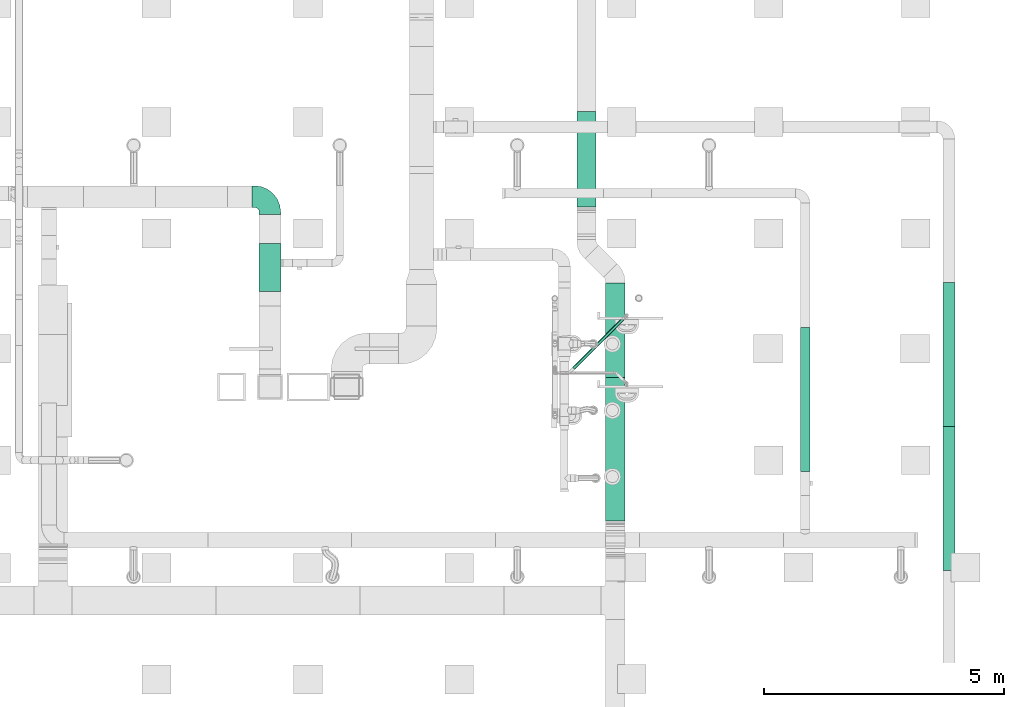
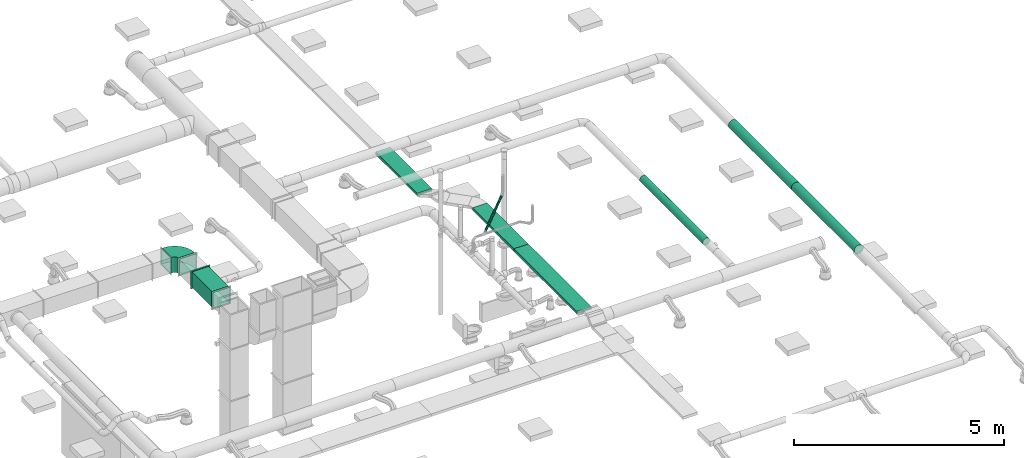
# One storey, part 4 of 119: 5 flow segments, 3 distribution elements, 1 flow fitting.
"""IFC2X3 building model written with IfcOpenShell, lengths in metres."""

from ifc_helpers import new_model, si_unit, direction, frame, frame_2d, origin, place, context, subcontext, project, spatial, rectangle, extrude, open_shell, surface_model, source, transform, mapped, element, save


model = new_model("IFC2X3")

# Units and contexts
model_context = context("Model", 3, precision=1e-05, world=origin(), true_north=direction((-0.4480736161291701, 0.8939966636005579)))
body_context = subcontext(model_context, "Body", "Model", "MODEL_VIEW")
ifc_project = project(units=[si_unit("LENGTHUNIT", "METRE"), si_unit("AREAUNIT", "SQUARE_METRE"), si_unit("VOLUMEUNIT", "CUBIC_METRE"), si_unit("PLANEANGLEUNIT", "RADIAN"), si_unit("THERMODYNAMICTEMPERATUREUNIT", "KELVIN"), si_unit("MASSUNIT", "GRAM", prefix="KILO"), si_unit("TIMEUNIT", "SECOND")], contexts=[model_context])

# Site, building, storey
site_placement = place(None, origin())
site = spatial("IfcSite", under=ifc_project, at=site_placement, Name="Site 1", CompositionType="ELEMENT")
building_placement = place(site_placement, origin())
building = spatial("IfcBuilding", under=site, at=building_placement, Name="Undefined", CompositionType="ELEMENT")
storey_placement = place(building_placement, frame((0.0, 0.0, 5.4)))
storey = spatial("IfcBuildingStorey", under=building, at=storey_placement, Name="R+1", CompositionType="ELEMENT", Elevation=5.4)

# Flow segments
shared_shape_1 = source(origin(), body_context, "Body", "SurfaceModel", [
    surface_model("IfcFaceBasedSurfaceModel", [(0.0, 0.02610523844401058, 0.0), (0.0, 0.0, 0.0), (3.0, 0.0, 0.0), (3.0, 0.026105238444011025, 0.0), (0.0, -0.025215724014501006, -0.006756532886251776), (3.0, -0.02521572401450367, -0.006756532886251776), (0.0, -0.04782352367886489, -0.019809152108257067), (3.0, -0.04782352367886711, -0.019809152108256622), (0.0, -0.066282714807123, -0.038268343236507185), (3.0, -0.06628271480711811, -0.03826834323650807), (0.0, -0.07933533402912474, -0.06087614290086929), (3.0, -0.0793353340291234, -0.060876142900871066), (0.0, -0.08609186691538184, -0.08609186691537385), (3.0, -0.08609186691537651, -0.08609186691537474), (0.0, -0.08609186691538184, -0.11219710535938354), (3.0, -0.08609186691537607, -0.11219710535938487), (0.0, -0.07933533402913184, -0.1374128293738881), (3.0, -0.0793353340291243, -0.137412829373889), (0.0, -0.066282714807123, -0.16002062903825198), (3.0, -0.06628271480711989, -0.16002062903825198), (0.0, -0.04782352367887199, -0.17847982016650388), (3.0, -0.04782352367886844, -0.17847982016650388), (0.0, -0.025215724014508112, -0.19153243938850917), (3.0, -0.025215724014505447, -0.19153243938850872), (0.0, -7.105427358e-15, -0.19828897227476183), (3.0, -8.8817842e-16, -0.1982889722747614), (0.0, 0.026105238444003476, -0.19828897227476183), (3.0, 0.026105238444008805, -0.19828897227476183), (0.0, 0.05132096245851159, -0.19153243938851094), (3.0, 0.051320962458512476, -0.1915324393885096), (0.0, 0.07392876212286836, -0.17847982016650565), (3.0, 0.07392876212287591, -0.17847982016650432), (0.0, 0.09238795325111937, -0.16002062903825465), (3.0, 0.09238795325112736, -0.16002062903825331), (0.0, 0.10544057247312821, -0.13741282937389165), (3.0, 0.1054405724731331, -0.13741282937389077), (0.0, 0.11219710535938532, -0.11219710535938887), (3.0, 0.11219710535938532, -0.11219710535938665), (0.0, 0.11219710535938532, -0.08609186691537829), (3.0, 0.1121971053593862, -0.08609186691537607), (0.0, 0.10544057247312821, -0.06087614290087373), (3.0, 0.10544057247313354, -0.0608761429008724), (0.0, 0.09238795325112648, -0.03826834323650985), (3.0, 0.0923879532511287, -0.038268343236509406), (0.0, 0.07392876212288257, -0.019809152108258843), (3.0, 0.07392876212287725, -0.01980915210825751), (0.0, 0.05132096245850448, -0.006756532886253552), (3.0, 0.05132096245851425, -0.006756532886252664)], [open_shell([[[0, 1, 2, 3]], [[1, 4, 5, 2]], [[4, 6, 7, 5]], [[6, 8, 9, 7]], [[8, 10, 11, 9]], [[10, 12, 13, 11]], [[12, 14, 15, 13]], [[14, 16, 17, 15]], [[16, 18, 19, 17]], [[18, 20, 21, 19]], [[20, 22, 23, 21]], [[22, 24, 25, 23]], [[24, 26, 27, 25]], [[26, 28, 29, 27]], [[28, 30, 31, 29]], [[30, 32, 33, 31]], [[32, 34, 35, 33]], [[34, 36, 37, 35]], [[36, 38, 39, 37]], [[38, 40, 41, 39]], [[40, 42, 43, 41]], [[42, 44, 45, 43]], [[44, 46, 47, 45]], [[46, 0, 3, 47]]])]),
])
flow_segment_1_placement = place(storey_placement, origin())
element("IfcFlowSegment", 1, at=flow_segment_1_placement, inside=storey, Name="Tube", ObjectType="Tube", context=body_context, shape_type="MappedRepresentation", body=[
    mapped(shared_shape_1, transform((62.31851567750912, 10.15603395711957, 2.8715925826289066), x_axis=(0.0, 1.0, 0.0), y_axis=(-0.9914448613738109, 0.0, 0.1305261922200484), z_axis=(0.1305261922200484, 0.0, 0.9914448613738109))),
])
shared_shape_2 = source(origin(), body_context, "Body", "SurfaceModel", [
    surface_model("IfcFaceBasedSurfaceModel", [(0.0, 0.03263154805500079, 0.0), (0.0, 0.0, 0.0), (3.0, 0.0, 0.0), (3.0, 0.03263154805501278, -4.4408921e-16), (0.0, -0.031519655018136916, -0.008445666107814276), (3.0, -0.03151965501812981, -0.008445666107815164), (0.0, -0.05977940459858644, -0.024761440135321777), (3.0, -0.05977940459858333, -0.02476144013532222), (0.0, -0.08285339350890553, -0.047835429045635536), (3.0, -0.08285339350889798, -0.04783542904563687), (0.0, -0.09916916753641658, -0.07609517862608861), (3.0, -0.09916916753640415, -0.07609517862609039), (0.0, -0.1076148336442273, -0.10761483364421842), (3.0, -0.10761483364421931, -0.10761483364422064), (0.0, -0.1076148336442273, -0.14024638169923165), (3.0, -0.10761483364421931, -0.14024638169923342), (0.0, -0.09916916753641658, -0.17176603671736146), (3.0, -0.09916916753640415, -0.17176603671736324), (0.0, -0.08285339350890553, -0.2000257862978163), (3.0, -0.08285339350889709, -0.20002578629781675), (0.0, -0.059779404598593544, -0.22309977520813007), (3.0, -0.059779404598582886, -0.22309977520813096), (0.0, -0.03151965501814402, -0.23941554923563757), (3.0, -0.03151965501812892, -0.23941554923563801), (0.0, -1.4210854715e-14, -0.24786121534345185), (3.0, 8.8817842e-16, -0.24786121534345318), (0.0, 0.03263154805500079, -0.24786121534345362), (3.0, 0.032631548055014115, -0.24786121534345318), (0.0, 0.0641512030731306, -0.23941554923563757), (3.0, 0.06415120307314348, -0.23941554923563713), (0.0, 0.09241095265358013, -0.22309977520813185), (3.0, 0.092410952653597, -0.22309977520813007), (0.0, 0.11548494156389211, -0.2000257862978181), (3.0, 0.11548494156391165, -0.20002578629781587), (0.0, 0.13180071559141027, -0.171766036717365), (3.0, 0.13180071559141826, -0.1717660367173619), (0.0, 0.140246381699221, -0.1402463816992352), (3.0, 0.14024638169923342, -0.14024638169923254), (0.0, 0.140246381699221, -0.10761483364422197), (3.0, 0.14024638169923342, -0.10761483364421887), (0.0, 0.13180071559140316, -0.07609517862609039), (3.0, 0.13180071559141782, -0.07609517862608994), (0.0, 0.11548494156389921, -0.04783542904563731), (3.0, 0.11548494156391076, -0.047835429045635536), (0.0, 0.09241095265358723, -0.024761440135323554), (3.0, 0.09241095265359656, -0.024761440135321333), (0.0, 0.06415120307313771, -0.008445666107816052), (3.0, 0.06415120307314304, -0.008445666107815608)], [open_shell([[[0, 1, 2, 3]], [[1, 4, 5, 2]], [[4, 6, 7, 5]], [[6, 8, 9, 7]], [[8, 10, 11, 9]], [[10, 12, 13, 11]], [[12, 14, 15, 13]], [[14, 16, 17, 15]], [[16, 18, 19, 17]], [[18, 20, 21, 19]], [[20, 22, 23, 21]], [[22, 24, 25, 23]], [[24, 26, 27, 25]], [[26, 28, 29, 27]], [[28, 30, 31, 29]], [[30, 32, 33, 31]], [[32, 34, 35, 33]], [[34, 36, 37, 35]], [[36, 38, 39, 37]], [[38, 40, 41, 39]], [[40, 42, 43, 41]], [[42, 44, 45, 43]], [[44, 46, 47, 45]], [[46, 0, 3, 47]]])]),
])
flow_segment_2_placement = place(storey_placement, origin())
element("IfcFlowSegment", 2, at=flow_segment_2_placement, inside=storey, Name="Tube", ObjectType="Tube", context=body_context, shape_type="MappedRepresentation", body=[
    mapped(shared_shape_2, transform((65.25765520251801, 14.089283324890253, 2.8707407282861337), x_axis=(0.0, -1.0, 0.0), y_axis=(0.9914448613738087, 0.0, 0.13052619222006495), z_axis=(-0.13052619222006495, 0.0, 0.9914448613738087))),
])
flow_segment_3_placement = place(storey_placement, origin())
element("IfcFlowSegment", 3, at=flow_segment_3_placement, inside=storey, Name="Tube", ObjectType="Tube", context=body_context, shape_type="MappedRepresentation", body=[
    mapped(shared_shape_2, transform((65.25765520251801, 11.089283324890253, 2.8707407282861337), x_axis=(0.0, -1.0, 0.0), y_axis=(0.9914448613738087, 0.0, 0.13052619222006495), z_axis=(-0.13052619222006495, 0.0, 0.9914448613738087))),
])

# Flow fitting
shared_shape_3 = source(origin(), body_context, "Body", "SurfaceModel", [
    surface_model("IfcFaceBasedSurfaceModel", [(0.0, 0.0, 0.0), (0.5299999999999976, 4.4408921e-16, 0.0), (0.48999999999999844, 0.03999999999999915, 0.0), (0.04000000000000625, 0.040000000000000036, 0.0), (0.5299999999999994, 0.5300000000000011, 0.0), (0.48999999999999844, 0.490000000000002, 0.0), (0.0, 0.5300000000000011, 0.0), (0.03999999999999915, 0.490000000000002, 0.0), (0.6369999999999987, 0.0, -0.637), (0.6369999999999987, 0.0, -0.10699999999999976), (0.6369999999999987, 0.03999999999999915, -0.1469999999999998), (0.6369999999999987, 0.03999999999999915, -0.597), (0.6369999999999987, 0.5300000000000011, -0.10699999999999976), (0.6369999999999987, 0.490000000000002, -0.1469999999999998), (0.6369999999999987, 0.5300000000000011, -0.637), (0.6369999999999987, 0.490000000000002, -0.597), (0.03999999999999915, 0.490000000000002, -0.04699999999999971), (0.05874079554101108, 0.490000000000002, -0.1893504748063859), (0.05874079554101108, 0.03999999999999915, -0.1893504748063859), (0.04000000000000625, 0.040000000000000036, -0.0470000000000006), (0.11368602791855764, 0.490000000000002, -0.3219999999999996), (0.11368602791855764, 0.03999999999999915, -0.3219999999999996), (0.2010912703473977, 0.490000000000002, -0.4359087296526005), (0.2010912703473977, 0.03999999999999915, -0.4359087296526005), (0.3149999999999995, 0.490000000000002, -0.5233139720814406), (0.3149999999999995, 0.03999999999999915, -0.5233139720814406), (0.44764952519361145, 0.490000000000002, -0.5782592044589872), (0.44764952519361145, 0.03999999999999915, -0.5782592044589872), (0.5899999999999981, 0.490000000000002, -0.597), (0.5899999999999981, 0.03999999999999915, -0.597), (0.04000000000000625, 0.040000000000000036, 0.0030000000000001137), (0.03999999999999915, 0.490000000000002, 0.0030000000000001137), (0.48999999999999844, 0.03999999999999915, 0.0030000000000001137), (0.48999999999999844, 0.03999999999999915, -0.04699999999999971), (0.48999999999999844, 0.490000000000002, -0.04699999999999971), (0.48999999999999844, 0.490000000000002, 0.0030000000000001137), (0.5899999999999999, 0.490000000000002, -0.1469999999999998), (0.5641180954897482, 0.490000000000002, -0.1435925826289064), (0.5641180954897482, 0.03999999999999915, -0.1435925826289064), (0.5899999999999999, 0.03999999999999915, -0.1469999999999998), (0.5399999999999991, 0.490000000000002, -0.13360254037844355), (0.5399999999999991, 0.03999999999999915, -0.13360254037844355), (0.5192893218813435, 0.490000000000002, -0.11771067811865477), (0.5192893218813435, 0.03999999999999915, -0.11771067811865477), (0.5033974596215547, 0.490000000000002, -0.09699999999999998), (0.5033974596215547, 0.03999999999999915, -0.09699999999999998), (0.49340741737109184, 0.490000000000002, -0.07288190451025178), (0.49340741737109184, 0.03999999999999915, -0.07288190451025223), (0.6400000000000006, 0.040000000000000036, -0.14700000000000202), (0.6399999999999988, 0.490000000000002, -0.1469999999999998), (0.6399999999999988, 0.03999999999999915, -0.597), (0.6399999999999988, 0.490000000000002, -0.597)], [open_shell([[[0, 1, 2, 3]], [[1, 4, 5, 2]], [[6, 4, 5, 7]], [[0, 6, 7, 3]], [[8, 9, 10, 11]], [[9, 12, 13, 10]], [[14, 12, 13, 15]], [[8, 14, 15, 11]], [[16, 17, 18, 19]], [[17, 20, 21, 18]], [[20, 22, 23, 21]], [[22, 24, 25, 23]], [[24, 26, 27, 25]], [[26, 28, 29, 27]], [[19, 30, 31, 16]], [[32, 33, 34, 35]], [[36, 37, 38, 39]], [[37, 40, 41, 38]], [[40, 42, 43, 41]], [[42, 44, 45, 43]], [[44, 46, 47, 45]], [[46, 34, 33, 47]], [[39, 48, 49, 36]], [[50, 29, 28, 51]], [[17, 16, 46]], [[17, 46, 44]], [[17, 44, 42]], [[17, 42, 40]], [[17, 40, 37]], [[17, 37, 36]], [[17, 36, 51]], [[17, 51, 20]], [[34, 46, 16]], [[34, 16, 31]], [[34, 31, 35]], [[51, 28, 26]], [[51, 26, 24]], [[51, 24, 22]], [[51, 22, 20]], [[51, 36, 49]], [[47, 19, 18]], [[45, 47, 18]], [[43, 45, 18]], [[41, 43, 18]], [[38, 41, 18]], [[39, 38, 18]], [[50, 39, 18]], [[21, 50, 18]], [[19, 47, 33]], [[30, 19, 33]], [[32, 30, 33]], [[27, 29, 50]], [[25, 27, 50]], [[23, 25, 50]], [[21, 23, 50]], [[48, 39, 50]]])]),
])
flow_fitting_placement = place(storey_placement, origin())
element("IfcFlowFitting", 4, at=flow_fitting_placement, inside=storey, Name="Coude symétrique", ObjectType="Coude symétrique", context=body_context, shape_type="MappedRepresentation", body=[
    mapped(shared_shape_3, transform((50.762994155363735, 16.149794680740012, 2.5100000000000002), x_axis=(0.0, -1.0, 0.0), y_axis=(0.0, 0.0, 1.0), z_axis=(-1.0, 0.0, 0.0))),
])

# Flow segments
shared_shape_4 = source(origin(), body_context, "Body", "SurfaceModel", [
    surface_model("IfcFaceBasedSurfaceModel", [(0.0, 0.0, 0.0), (0.5299999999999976, 4.4408921e-16, 0.0), (0.48999999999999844, 0.03999999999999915, 0.0), (0.04000000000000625, 0.040000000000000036, 0.0), (0.5299999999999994, 0.5300000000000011, 0.0), (0.48999999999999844, 0.490000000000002, 0.0), (0.0, 0.5300000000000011, 0.0), (0.03999999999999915, 0.490000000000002, 0.0), (0.0, 0.0, -0.9939999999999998), (0.5299999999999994, 0.0, -0.9939999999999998), (0.48999999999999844, 0.040000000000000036, -0.9939999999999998), (0.03999999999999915, 0.040000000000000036, -0.9939999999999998), (0.5299999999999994, 0.5300000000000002, -0.9939999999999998), (0.48999999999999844, 0.4900000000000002, -0.9939999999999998), (0.0, 0.5300000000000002, -0.9939999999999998), (0.03999999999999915, 0.4900000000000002, -0.9939999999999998), (0.03999999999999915, 0.490000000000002, 0.0030000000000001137), (0.03999999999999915, 0.4900000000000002, -0.9969999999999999), (0.03999999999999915, 0.040000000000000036, -0.9969999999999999), (0.04000000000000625, 0.040000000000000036, 0.0030000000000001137), (0.48999999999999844, 0.040000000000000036, -0.9969999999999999), (0.48999999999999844, 0.03999999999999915, 0.0030000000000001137), (0.48999999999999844, 0.4900000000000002, -0.9969999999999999), (0.48999999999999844, 0.490000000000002, 0.0030000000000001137)], [open_shell([[[0, 1, 2, 3]], [[1, 4, 5, 2]], [[6, 4, 5, 7]], [[0, 6, 7, 3]], [[8, 9, 10, 11]], [[9, 12, 13, 10]], [[14, 12, 13, 15]], [[8, 14, 15, 11]], [[16, 17, 18, 19]], [[19, 18, 20, 21]], [[21, 20, 22, 23]], [[23, 22, 17, 16]]])]),
])
flow_segment_4_placement = place(storey_placement, origin())
element("IfcFlowSegment", 5, at=flow_segment_4_placement, inside=storey, Name="Gaine de ventilation", ObjectType="Gaine de ventilation", context=body_context, shape_type="MappedRepresentation", body=[
    mapped(shared_shape_4, transform((50.869994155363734, 13.90610059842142, 3.04), x_axis=(0.0, 0.0, -1.0), y_axis=(1.0, 0.0, 0.0), z_axis=(0.0, -1.0, 0.0))),
])
shared_shape_5 = source(origin(), body_context, "Body", "SurfaceModel", [
    surface_model("IfcFaceBasedSurfaceModel", [(1.4549463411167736, -3.552713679e-15, 0.0), (1.4549566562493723, 0.008223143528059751, 0.0), (1.0315132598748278e-05, 0.008223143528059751, -3.552713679e-15), (0.0, 0.0, 0.0), (1.45496626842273, 0.016166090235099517, -0.0021283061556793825), (1.9927305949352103e-05, 0.016166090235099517, -0.00212830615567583), (1.4549745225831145, 0.02328754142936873, -0.006239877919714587), (2.8181466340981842e-05, 0.023287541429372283, -0.00623987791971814), (1.4549808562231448, 0.029102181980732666, -0.012054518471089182), (3.4515106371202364e-05, 0.02910218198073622, -0.012054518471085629), (1.4549848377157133, 0.03321375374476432, -0.019175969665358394), (3.849659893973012e-05, 0.033213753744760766, -0.019175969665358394), (1.4549861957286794, 0.035342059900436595, -0.027118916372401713), (3.9854611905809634e-05, 0.03534205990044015, -0.027118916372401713), (1.4549848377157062, 0.03534205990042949, -0.03534205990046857), (3.849659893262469e-05, 0.03534205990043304, -0.03534205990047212), (1.4549808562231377, 0.03321375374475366, -0.04328500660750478), (3.4515106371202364e-05, 0.03321375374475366, -0.043285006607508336), (1.4549745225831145, 0.02910218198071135, -0.050406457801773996), (2.8181466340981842e-05, 0.029102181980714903, -0.05040645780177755), (1.454966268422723, 0.023287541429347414, -0.056221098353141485), (1.9927305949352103e-05, 0.023287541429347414, -0.056221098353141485), (1.4549566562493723, 0.016166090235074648, -0.060332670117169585), (1.0315132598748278e-05, 0.016166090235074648, -0.06033267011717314), (1.4549463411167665, 0.00822314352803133, -0.06246097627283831), (0.0, 0.00822314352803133, -0.062460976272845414), (1.454936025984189, -3.5527136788e-14, -0.062460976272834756), (-1.031513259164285e-05, -3.1974423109e-14, -0.06246097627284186), (1.4549264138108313, -0.007942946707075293, -0.060332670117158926), (-1.9927305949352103e-05, -0.007942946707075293, -0.060332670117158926), (1.4549181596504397, -0.015064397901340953, -0.056221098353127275), (-2.8181466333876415e-05, -0.015064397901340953, -0.056221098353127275), (1.4549118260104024, -0.020879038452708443, -0.05040645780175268), (-3.4515106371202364e-05, -0.020879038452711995, -0.05040645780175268), (1.454907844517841, -0.024990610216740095, -0.043285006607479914), (-3.849659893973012e-05, -0.024990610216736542, -0.043285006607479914), (1.4549064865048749, -0.02711891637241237, -0.035342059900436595), (-3.9854611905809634e-05, -0.02711891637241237, -0.035342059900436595), (1.454907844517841, -0.027118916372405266, -0.027118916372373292), (-3.849659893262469e-05, -0.027118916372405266, -0.027118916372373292), (1.4549118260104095, -0.024990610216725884, -0.019175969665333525), (-3.451510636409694e-05, -0.024990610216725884, -0.019175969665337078), (1.4549181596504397, -0.02087903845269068, -0.01205451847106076), (-2.8181466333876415e-05, -0.020879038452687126, -0.012054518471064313), (1.4549264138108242, -0.015064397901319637, -0.006239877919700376), (-1.9927305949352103e-05, -0.01506439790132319, -0.0062398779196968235), (1.454936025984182, -0.007942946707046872, -0.0021283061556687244), (-1.031513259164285e-05, -0.007942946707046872, -0.0021283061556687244)], [open_shell([[[0, 1, 2, 3]], [[1, 4, 5, 2]], [[4, 6, 7, 5]], [[6, 8, 9, 7]], [[8, 10, 11, 9]], [[10, 12, 13, 11]], [[12, 14, 15, 13]], [[14, 16, 17, 15]], [[16, 18, 19, 17]], [[18, 20, 21, 19]], [[20, 22, 23, 21]], [[22, 24, 25, 23]], [[24, 26, 27, 25]], [[26, 28, 29, 27]], [[28, 30, 31, 29]], [[30, 32, 33, 31]], [[32, 34, 35, 33]], [[34, 36, 37, 35]], [[36, 38, 39, 37]], [[38, 40, 41, 39]], [[40, 42, 43, 41]], [[42, 44, 45, 43]], [[44, 46, 47, 45]], [[46, 0, 3, 47]]])]),
])
flow_segment_5_placement = place(storey_placement, origin())
element("IfcFlowSegment", 6, at=flow_segment_5_placement, inside=storey, Name="PE-HD tuyau", ObjectType="PE-HD tuyau", context=body_context, shape_type="MappedRepresentation", body=[
    mapped(shared_shape_5, transform((58.51137193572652, 13.31085099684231, 3.4717784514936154), x_axis=(-0.7072013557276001, -0.706841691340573, -0.015526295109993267), y_axis=(-0.45379617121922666, 0.4706480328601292, -0.7566765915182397), z_axis=(0.5421579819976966, -0.528076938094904, -0.6536049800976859))),
])

# Distribution elements
distribution_element_1_placement = place(storey_placement, origin())
element("IfcDistributionElement", 7, at=distribution_element_1_placement, inside=storey, Name="Chemin(s) de câbles", ObjectType="Chemin(s) de câbles", context=body_context, shape_type="SweptSolid", body=[
    extrude(rectangle(XDim=0.4, YDim=0.08, at=frame_2d((3.552713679e-15, 0.0), x_axis=(-1.0, 0.0))), frame((58.335999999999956, 9.11573294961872, 2.79), z_axis=(0.0, 1.0, 0.0), x_axis=(-1.0, 0.0, 0.0)), (0.0, 0.0, 1.0), 3.0),
])
distribution_element_2_placement = place(storey_placement, origin())
element("IfcDistributionElement", 8, at=distribution_element_2_placement, inside=storey, Name="Chemin(s) de câbles", ObjectType="Chemin(s) de câbles", context=body_context, shape_type="SweptSolid", body=[
    extrude(rectangle(XDim=0.4, YDim=0.08, at=frame_2d((3.552713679e-15, 0.0), x_axis=(-1.0, 0.0))), frame((57.735999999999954, 17.65304430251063, 2.455000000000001), z_axis=(0.0, -1.0, 0.0), x_axis=(1.0, 0.0, 0.0)), (0.0, 0.0, 1.0), 1.984126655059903),
])
distribution_element_3_placement = place(storey_placement, origin())
element("IfcDistributionElement", 9, at=distribution_element_3_placement, inside=storey, Name="Chemin(s) de câbles", ObjectType="Chemin(s) de câbles", context=body_context, shape_type="SweptSolid", body=[
    extrude(rectangle(XDim=0.4, YDim=0.08, at=frame_2d((3.552713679e-15, 0.0), x_axis=(-1.0, 0.0))), frame((58.335999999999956, 14.081573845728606, 2.7900000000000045), z_axis=(0.0, -1.0, 0.0), x_axis=(-1.0, 0.0, 0.0)), (0.0, 0.0, 1.0), 1.9658408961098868),
])

save(model, "model.ifc")
